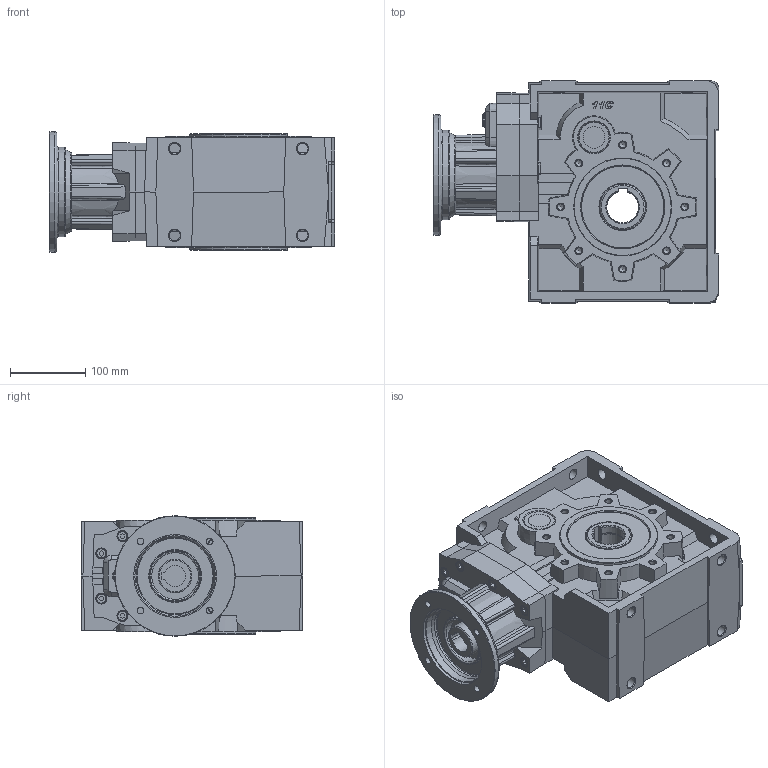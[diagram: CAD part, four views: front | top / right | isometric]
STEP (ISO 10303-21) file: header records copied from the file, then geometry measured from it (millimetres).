
FILE_DESCRIPTION( ( 'Unknown' ), '1' );
FILE_NAME( 'E:/services/configuratordownloads/customers/HYDROMEC/X/download/CBFAEFD1F2C52A41A74753537636ACEE/STEP/CBFAEFD1F2C52A41A74753537636ACEE.3d.stp', 'Unknown', ( 'Unknown' ), ( 'Unknown' ), 'PSStep 10.1', 'Unknown', ' ' );
FILE_SCHEMA( ( 'AUTOMOTIVE_DESIGN { 1 0 10303 214 1 1 1 1 }' ) );
Length unit declared in the file: millimetre
Products named in the file (1): 11C8800_NEW
Bounding box: 379 x 295 x 160 mm (x, y, z)
Volume: 10146445.6 mm3; surface area: 571179.2 mm2
Topology: 1 solids, 27 shells, 969 faces, 2444 edges, 1584 vertices
Faces by surface type: plane 534, cylinder 190, cone 184, torus 37, bspline 24
Full cylindrical faces by diameter (mm): 4.917 x16, 5.6 x8, 6 x10, 6.647 x16, 7 x8, 8.376 x32, 9 x4, 12 x8, 13 x8, 13.5 x1, 14.5 x12, 18 x1, 19 x1, 21 x1, 29 x2, 45 x1, 62 x1, 68 x1, 103 x1, 107 x1, 110 x3, 119 x1, 130 x2, 160 x1
Entity records: 36902 total; most frequent: CARTESIAN_POINT 7791, DIRECTION 4318, ORIENTED_EDGE 4020, EDGE_CURVE 2010, AXIS2_PLACEMENT_3D 1578, VERTEX_POINT 1481, EDGE_LOOP 1357, LINE 1162
